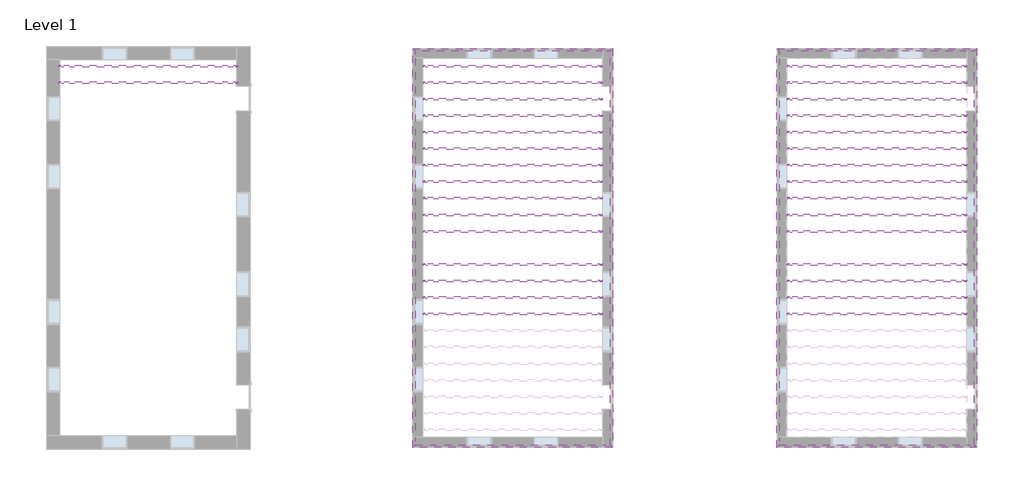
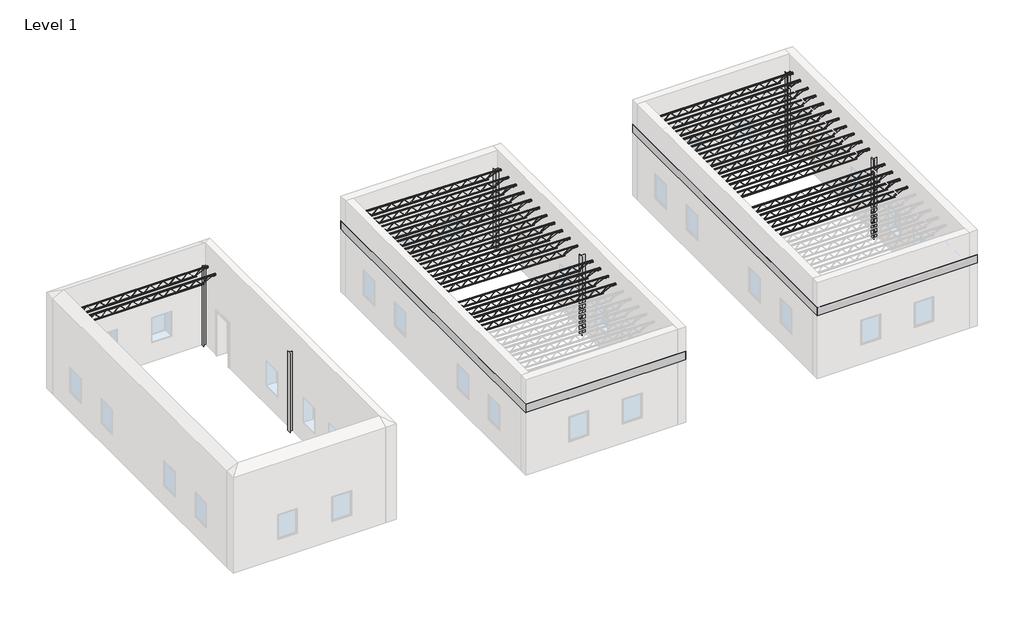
# One storey, part 3 of 3: 32 beams, 10 columns, 8 proxies.
"""IFC4 building model written with IfcOpenShell, lengths in millimetres."""

from ifc_helpers import new_model, si_unit, point, frame, frame_2d, origin, origin_with_axes, place, context, project, spatial, polyline, circle_curve, trimmed, segment, composite_curve, outline, extrude, faceted_brep, transform, mapped, element, save
from components import k_series_bar_joist_rod_web_12k1_aec08bc9, k_series_bar_joist_rod_web_12k1_dd27f140

model = new_model("IFC4")

# Units and contexts
model_context = context("Model", 3, world=origin())
ifc_project = project(units=[si_unit("LENGTHUNIT", "METRE", prefix="MILLI")], contexts=[model_context])

# Site, building, storey
site = spatial("IfcSite", under=ifc_project)
building = spatial("IfcBuilding", under=site)
storey = spatial("IfcBuildingStorey", under=building, Name="Level 1", Elevation=0.0)

# Beams
placement = place(None, origin())
k_series_bar_joist_rod_web_12k1_shape = k_series_bar_joist_rod_web_12k1_aec08bc9(model_context)
element("IfcBeam", 1, ObjectType="K-Series Bar Joist-Rod Web : 12K1", at=placement, inside=storey, context=model_context, shape_type="MappedRepresentation", body=[
    mapped(k_series_bar_joist_rod_web_12k1_shape, transform((28873.0055911, 557.9351523, 3764.3), x_axis=(1.0, 0.0, 0.0), y_axis=(0.0, 1.0, 0.0), z_axis=(0.0, 0.0, 1.0))),
])
element("IfcBeam", 2, ObjectType="K-Series Bar Joist-Rod Web : 12K1", at=placement, inside=storey, context=model_context, shape_type="MappedRepresentation", body=[
    mapped(k_series_bar_joist_rod_web_12k1_shape, transform((28873.0055911, 1167.5351523, 3764.3), x_axis=(1.0, 0.0, 0.0), y_axis=(0.0, 1.0, 0.0), z_axis=(0.0, 0.0, 1.0))),
])
element("IfcBeam", 3, ObjectType="K-Series Bar Joist-Rod Web : 12K1", at=placement, inside=storey, context=model_context, shape_type="MappedRepresentation", body=[
    mapped(k_series_bar_joist_rod_web_12k1_shape, transform((28873.0055911, 1777.1351523, 3764.3), x_axis=(1.0, 0.0, 0.0), y_axis=(0.0, 1.0, 0.0), z_axis=(0.0, 0.0, 1.0))),
])
element("IfcBeam", 4, ObjectType="K-Series Bar Joist-Rod Web : 12K1", at=placement, inside=storey, context=model_context, shape_type="MappedRepresentation", body=[
    mapped(k_series_bar_joist_rod_web_12k1_shape, transform((28873.0055911, 2386.7351523, 3764.3), x_axis=(1.0, 0.0, 0.0), y_axis=(0.0, 1.0, 0.0), z_axis=(0.0, 0.0, 1.0))),
])
element("IfcBeam", 5, ObjectType="K-Series Bar Joist-Rod Web : 12K1", at=placement, inside=storey, context=model_context, shape_type="MappedRepresentation", body=[
    mapped(k_series_bar_joist_rod_web_12k1_shape, transform((28873.0055911, 3605.9351523, 3764.3), x_axis=(1.0, 0.0, 0.0), y_axis=(0.0, 1.0, 0.0), z_axis=(0.0, 0.0, 1.0))),
])
element("IfcBeam", 6, ObjectType="K-Series Bar Joist-Rod Web : 12K1", at=placement, inside=storey, context=model_context, shape_type="MappedRepresentation", body=[
    mapped(k_series_bar_joist_rod_web_12k1_shape, transform((28873.0055911, 4215.5351523, 3764.3), x_axis=(1.0, 0.0, 0.0), y_axis=(0.0, 1.0, 0.0), z_axis=(0.0, 0.0, 1.0))),
])
element("IfcBeam", 7, ObjectType="K-Series Bar Joist-Rod Web : 12K1", at=placement, inside=storey, context=model_context, shape_type="MappedRepresentation", body=[
    mapped(k_series_bar_joist_rod_web_12k1_shape, transform((28873.0055911, 4825.1351523, 3764.3), x_axis=(1.0, 0.0, 0.0), y_axis=(0.0, 1.0, 0.0), z_axis=(0.0, 0.0, 1.0))),
])
element("IfcBeam", 8, ObjectType="K-Series Bar Joist-Rod Web : 12K1", at=placement, inside=storey, context=model_context, shape_type="MappedRepresentation", body=[
    mapped(k_series_bar_joist_rod_web_12k1_shape, transform((28873.0055911, 5434.7351523, 3764.3), x_axis=(1.0, 0.0, 0.0), y_axis=(0.0, 1.0, 0.0), z_axis=(0.0, 0.0, 1.0))),
])
element("IfcBeam", 9, ObjectType="K-Series Bar Joist-Rod Web : 12K1", at=placement, inside=storey, context=model_context, shape_type="MappedRepresentation", body=[
    mapped(k_series_bar_joist_rod_web_12k1_shape, transform((28873.0055911, 6044.3351523, 3764.3), x_axis=(1.0, 0.0, 0.0), y_axis=(0.0, 1.0, 0.0), z_axis=(0.0, 0.0, 1.0))),
])
element("IfcBeam", 10, ObjectType="K-Series Bar Joist-Rod Web : 12K1", at=placement, inside=storey, context=model_context, shape_type="MappedRepresentation", body=[
    mapped(k_series_bar_joist_rod_web_12k1_shape, transform((28873.0055911, 6653.9351523, 3764.3), x_axis=(1.0, 0.0, 0.0), y_axis=(0.0, 1.0, 0.0), z_axis=(0.0, 0.0, 1.0))),
])
element("IfcBeam", 11, ObjectType="K-Series Bar Joist-Rod Web : 12K1", at=placement, inside=storey, context=model_context, shape_type="MappedRepresentation", body=[
    mapped(k_series_bar_joist_rod_web_12k1_shape, transform((28873.0055911, 7263.5351523, 3764.3), x_axis=(1.0, 0.0, 0.0), y_axis=(0.0, 1.0, 0.0), z_axis=(0.0, 0.0, 1.0))),
])
element("IfcBeam", 12, ObjectType="K-Series Bar Joist-Rod Web : 12K1", at=placement, inside=storey, context=model_context, shape_type="MappedRepresentation", body=[
    mapped(k_series_bar_joist_rod_web_12k1_shape, transform((28873.0055911, 7873.1351523, 3764.3), x_axis=(1.0, 0.0, 0.0), y_axis=(0.0, 1.0, 0.0), z_axis=(0.0, 0.0, 1.0))),
])
element("IfcBeam", 13, ObjectType="K-Series Bar Joist-Rod Web : 12K1", at=placement, inside=storey, context=model_context, shape_type="MappedRepresentation", body=[
    mapped(k_series_bar_joist_rod_web_12k1_shape, transform((28873.0055911, 8482.7351523, 3764.3), x_axis=(1.0, 0.0, 0.0), y_axis=(0.0, 1.0, 0.0), z_axis=(0.0, 0.0, 1.0))),
])
element("IfcBeam", 14, ObjectType="K-Series Bar Joist-Rod Web : 12K1", at=placement, inside=storey, context=model_context, shape_type="MappedRepresentation", body=[
    mapped(k_series_bar_joist_rod_web_12k1_shape, transform((28873.0055911, 9092.3351523, 3764.3), x_axis=(1.0, 0.0, 0.0), y_axis=(0.0, 1.0, 0.0), z_axis=(0.0, 0.0, 1.0))),
])
element("IfcBeam", 15, ObjectType="K-Series Bar Joist-Rod Web : 12K1", at=placement, inside=storey, context=model_context, shape_type="MappedRepresentation", body=[
    mapped(k_series_bar_joist_rod_web_12k1_shape, transform((28873.0055911, 9701.9351523, 3764.3), x_axis=(1.0, 0.0, 0.0), y_axis=(0.0, 1.0, 0.0), z_axis=(0.0, 0.0, 1.0))),
])
element("IfcBeam", 16, ObjectType="K-Series Bar Joist-Rod Web : 12K1", at=placement, inside=storey, context=model_context, shape_type="MappedRepresentation", body=[
    mapped(k_series_bar_joist_rod_web_12k1_shape, transform((2050.6055911, 9092.3351523, 3764.3), x_axis=(1.0, 0.0, 0.0), y_axis=(0.0, 1.0, 0.0), z_axis=(0.0, 0.0, 1.0))),
])
element("IfcBeam", 17, ObjectType="K-Series Bar Joist-Rod Web : 12K1", at=placement, inside=storey, context=model_context, shape_type="MappedRepresentation", body=[
    mapped(k_series_bar_joist_rod_web_12k1_shape, transform((2050.6055911, 9701.9351523, 3764.3), x_axis=(1.0, 0.0, 0.0), y_axis=(0.0, 1.0, 0.0), z_axis=(0.0, 0.0, 1.0))),
])
k_series_bar_joist_rod_web_12k1_2_shape = k_series_bar_joist_rod_web_12k1_dd27f140(model_context)
element("IfcBeam", 18, ObjectType="K-Series Bar Joist-Rod Web : 12K1", at=placement, inside=storey, context=model_context, shape_type="MappedRepresentation", body=[
    mapped(k_series_bar_joist_rod_web_12k1_2_shape, transform((15460.0559301, 557.9351523, 3827.8172194), x_axis=(0.9998063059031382, 0.0, -0.019681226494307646), y_axis=(0.0, 1.0, 0.0), z_axis=(0.019681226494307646, 0.0, 0.9998063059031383))),
])
element("IfcBeam", 19, ObjectType="K-Series Bar Joist-Rod Web : 12K1", at=placement, inside=storey, context=model_context, shape_type="MappedRepresentation", body=[
    mapped(k_series_bar_joist_rod_web_12k1_2_shape, transform((15460.0559301, 1167.5351523, 3827.8172194), x_axis=(0.9998063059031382, 0.0, -0.019681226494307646), y_axis=(0.0, 1.0, 0.0), z_axis=(0.019681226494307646, 0.0, 0.9998063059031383))),
])
element("IfcBeam", 20, ObjectType="K-Series Bar Joist-Rod Web : 12K1", at=placement, inside=storey, context=model_context, shape_type="MappedRepresentation", body=[
    mapped(k_series_bar_joist_rod_web_12k1_2_shape, transform((15460.0559301, 1777.1351523, 3827.8172194), x_axis=(0.9998063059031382, 0.0, -0.019681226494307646), y_axis=(0.0, 1.0, 0.0), z_axis=(0.019681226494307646, 0.0, 0.9998063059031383))),
])
element("IfcBeam", 21, ObjectType="K-Series Bar Joist-Rod Web : 12K1", at=placement, inside=storey, context=model_context, shape_type="MappedRepresentation", body=[
    mapped(k_series_bar_joist_rod_web_12k1_2_shape, transform((15460.0559301, 2386.7351523, 3827.8172194), x_axis=(0.9998063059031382, 0.0, -0.019681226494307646), y_axis=(0.0, 1.0, 0.0), z_axis=(0.019681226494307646, 0.0, 0.9998063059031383))),
])
element("IfcBeam", 22, ObjectType="K-Series Bar Joist-Rod Web : 12K1", at=placement, inside=storey, context=model_context, shape_type="MappedRepresentation", body=[
    mapped(k_series_bar_joist_rod_web_12k1_2_shape, transform((15460.0559301, 3605.9351523, 3827.8172194), x_axis=(0.9998063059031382, 0.0, -0.019681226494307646), y_axis=(0.0, 1.0, 0.0), z_axis=(0.019681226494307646, 0.0, 0.9998063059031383))),
])
element("IfcBeam", 23, ObjectType="K-Series Bar Joist-Rod Web : 12K1", at=placement, inside=storey, context=model_context, shape_type="MappedRepresentation", body=[
    mapped(k_series_bar_joist_rod_web_12k1_2_shape, transform((15460.0559301, 4215.5351523, 3827.8172194), x_axis=(0.9998063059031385, 0.0, -0.019681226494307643), y_axis=(0.0, 1.0000000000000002, 0.0), z_axis=(0.019681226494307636, 0.0, 0.9998063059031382))),
])
element("IfcBeam", 24, ObjectType="K-Series Bar Joist-Rod Web : 12K1", at=placement, inside=storey, context=model_context, shape_type="MappedRepresentation", body=[
    mapped(k_series_bar_joist_rod_web_12k1_2_shape, transform((15460.0559301, 4825.1351523, 3827.8172194), x_axis=(0.9998063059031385, 0.0, -0.019681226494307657), y_axis=(0.0, 1.0000000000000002, 0.0), z_axis=(0.01968122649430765, 0.0, 0.9998063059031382))),
])
element("IfcBeam", 25, ObjectType="K-Series Bar Joist-Rod Web : 12K1", at=placement, inside=storey, context=model_context, shape_type="MappedRepresentation", body=[
    mapped(k_series_bar_joist_rod_web_12k1_2_shape, transform((15460.0559301, 5434.7351523, 3827.8172194), x_axis=(0.9998063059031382, 0.0, -0.019681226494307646), y_axis=(0.0, 1.0, 0.0), z_axis=(0.019681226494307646, 0.0, 0.9998063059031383))),
])
element("IfcBeam", 26, ObjectType="K-Series Bar Joist-Rod Web : 12K1", at=placement, inside=storey, context=model_context, shape_type="MappedRepresentation", body=[
    mapped(k_series_bar_joist_rod_web_12k1_2_shape, transform((15460.0559301, 6044.3351523, 3827.8172194), x_axis=(0.9998063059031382, 0.0, -0.019681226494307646), y_axis=(0.0, 1.0, 0.0), z_axis=(0.019681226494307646, 0.0, 0.9998063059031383))),
])
element("IfcBeam", 27, ObjectType="K-Series Bar Joist-Rod Web : 12K1", at=placement, inside=storey, context=model_context, shape_type="MappedRepresentation", body=[
    mapped(k_series_bar_joist_rod_web_12k1_2_shape, transform((15460.0559301, 6653.9351523, 3827.8172194), x_axis=(0.9998063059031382, 0.0, -0.019681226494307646), y_axis=(0.0, 1.0, 0.0), z_axis=(0.019681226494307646, 0.0, 0.9998063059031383))),
])
element("IfcBeam", 28, ObjectType="K-Series Bar Joist-Rod Web : 12K1", at=placement, inside=storey, context=model_context, shape_type="MappedRepresentation", body=[
    mapped(k_series_bar_joist_rod_web_12k1_2_shape, transform((15460.0559301, 7263.5351523, 3827.8172194), x_axis=(0.9998063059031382, 0.0, -0.019681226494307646), y_axis=(0.0, 1.0, 0.0), z_axis=(0.019681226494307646, 0.0, 0.9998063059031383))),
])
element("IfcBeam", 29, ObjectType="K-Series Bar Joist-Rod Web : 12K1", at=placement, inside=storey, context=model_context, shape_type="MappedRepresentation", body=[
    mapped(k_series_bar_joist_rod_web_12k1_2_shape, transform((15460.0559301, 7873.1351523, 3827.8172194), x_axis=(0.9998063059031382, 0.0, -0.019681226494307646), y_axis=(0.0, 1.0, 0.0), z_axis=(0.019681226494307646, 0.0, 0.9998063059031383))),
])
element("IfcBeam", 30, ObjectType="K-Series Bar Joist-Rod Web : 12K1", at=placement, inside=storey, context=model_context, shape_type="MappedRepresentation", body=[
    mapped(k_series_bar_joist_rod_web_12k1_2_shape, transform((15460.0559301, 8482.7351523, 3827.8172194), x_axis=(0.9998063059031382, 0.0, -0.019681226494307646), y_axis=(0.0, 1.0, 0.0), z_axis=(0.019681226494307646, 0.0, 0.9998063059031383))),
])
element("IfcBeam", 31, ObjectType="K-Series Bar Joist-Rod Web : 12K1", at=placement, inside=storey, context=model_context, shape_type="MappedRepresentation", body=[
    mapped(k_series_bar_joist_rod_web_12k1_2_shape, transform((15460.0559301, 9092.3351523, 3827.8172194), x_axis=(0.9998063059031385, 0.0, -0.019681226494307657), y_axis=(0.0, 1.0000000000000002, 0.0), z_axis=(0.01968122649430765, 0.0, 0.9998063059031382))),
])
element("IfcBeam", 32, ObjectType="K-Series Bar Joist-Rod Web : 12K1", at=placement, inside=storey, context=model_context, shape_type="MappedRepresentation", body=[
    mapped(k_series_bar_joist_rod_web_12k1_2_shape, transform((15460.0559301, 9701.9351523, 3827.8172194), x_axis=(0.9998063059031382, 0.0, -0.019681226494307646), y_axis=(0.0, 1.0, 0.0), z_axis=(0.019681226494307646, 0.0, 0.9998063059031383))),
])

# Proxies
element("IfcBuildingElementProxy", 33, Name="Wall Sweeps", at=placement, inside=storey, context=model_context, shape_type="SweptSolid", body=[
    extrude(outline(polyline([(19141.6305911, -4353.7898477), (19049.5555911, -4261.7148477), (19049.5555911, 10254.3851523), (19141.6305911, 10346.4601523), (19141.6305911, -4353.7898477)])), frame((0.0, 0.0, 3048.0), z_axis=(0.0, 0.0, 1.0), x_axis=(1.0, 0.0, 0.0)), (0.0, 0.0, 1.0), 406.4),
])
element("IfcBuildingElementProxy", 34, Name="Wall Sweeps", at=placement, inside=storey, context=model_context, shape_type="Brep", body=[
    faceted_brep([(19141.6305911, 10346.4601523, 3454.4), (19049.5555911, 10254.3851523, 3454.4), (19049.5555911, 10254.3851523, 3048.0), (19141.6305911, 10346.4601523, 3048.0), (11781.9805911, 10346.4601523, 3454.4), (11781.9805911, 10346.4601523, 3048.0), (11874.0555911, 10254.3851523, 3048.0), (11874.0555911, 10254.3851523, 3454.4), (18776.5055911, 10254.3851523, 3454.4), (18776.5055911, 10254.3851523, 3048.0)], [[[0, 1, 2, 3]], [[4, 5, 6, 7]], [[1, 0, 4, 7, 8]], [[2, 1, 8, 7, 6, 9]], [[3, 2, 9, 6, 5]], [[0, 3, 5, 4]]]),
])
element("IfcBuildingElementProxy", 35, Name="Wall Sweeps", at=placement, inside=storey, context=model_context, shape_type="Brep", body=[
    faceted_brep([(19141.6305911, -4353.7898477, 3454.4), (19141.6305911, -4353.7898477, 3048.0), (19049.5555911, -4261.7148477, 3048.0), (19049.5555911, -4261.7148477, 3454.4), (11781.9805911, -4353.7898477, 3454.4), (11874.0555911, -4261.7148477, 3454.4), (11874.0555911, -4261.7148477, 3048.0), (11781.9805911, -4353.7898477, 3048.0), (18776.5055911, -4261.7148477, 3048.0), (18776.5055911, -4261.7148477, 3454.4)], [[[0, 1, 2, 3]], [[4, 5, 6, 7]], [[1, 0, 4, 7]], [[2, 1, 7, 6, 8]], [[3, 2, 8, 6, 5, 9]], [[0, 3, 9, 5, 4]]]),
])
element("IfcBuildingElementProxy", 36, Name="Wall Sweeps", at=placement, inside=storey, context=model_context, shape_type="Brep", body=[
    faceted_brep([(11781.9805911, -4353.7898477, 3454.4), (11781.9805911, -4353.7898477, 3048.0), (11874.0555911, -4261.7148477, 3048.0), (11874.0555911, -4261.7148477, 3454.4), (11781.9805911, 10346.4601523, 3454.4), (11874.0555911, 10254.3851523, 3454.4), (11874.0555911, 10254.3851523, 3048.0), (11781.9805911, 10346.4601523, 3048.0), (11874.0555911, 9981.3351523, 3048.0), (11874.0555911, -3988.6648477, 3048.0), (11874.0555911, 9981.3351523, 3454.4), (11874.0555911, -3988.6648477, 3454.4)], [[[0, 1, 2, 3]], [[4, 5, 6, 7]], [[1, 0, 4, 7]], [[2, 1, 7, 6, 8, 9]], [[3, 2, 9, 8, 6, 5, 10, 11]], [[0, 3, 11, 10, 5, 4]]]),
])
element("IfcBuildingElementProxy", 37, Name="Wall Sweeps", at=placement, inside=storey, context=model_context, shape_type="SweptSolid", body=[
    extrude(outline(polyline([(32552.8305911, -4353.7898477), (32460.7555911, -4261.7148477), (32460.7555911, 10254.3851523), (32552.8305911, 10346.4601523), (32552.8305911, -4353.7898477)])), frame((0.0, 0.0, 3048.0), z_axis=(0.0, 0.0, 1.0), x_axis=(1.0, 0.0, 0.0)), (0.0, 0.0, 1.0), 406.4),
])
element("IfcBuildingElementProxy", 38, Name="Wall Sweeps", at=placement, inside=storey, context=model_context, shape_type="Brep", body=[
    faceted_brep([(32552.8305911, 10346.4601523, 3454.4), (32460.7555911, 10254.3851523, 3454.4), (32460.7555911, 10254.3851523, 3048.0), (32552.8305911, 10346.4601523, 3048.0), (25193.1805911, 10346.4601523, 3454.4), (25193.1805911, 10346.4601523, 3048.0), (25285.2555911, 10254.3851523, 3048.0), (25285.2555911, 10254.3851523, 3454.4), (32187.7055911, 10254.3851523, 3454.4), (32187.7055911, 10254.3851523, 3048.0)], [[[0, 1, 2, 3]], [[4, 5, 6, 7]], [[1, 0, 4, 7, 8]], [[2, 1, 8, 7, 6, 9]], [[3, 2, 9, 6, 5]], [[0, 3, 5, 4]]]),
])
element("IfcBuildingElementProxy", 39, Name="Wall Sweeps", at=placement, inside=storey, context=model_context, shape_type="Brep", body=[
    faceted_brep([(32552.8305911, -4353.7898477, 3454.4), (32552.8305911, -4353.7898477, 3048.0), (32460.7555911, -4261.7148477, 3048.0), (32460.7555911, -4261.7148477, 3454.4), (25193.1805911, -4353.7898477, 3454.4), (25285.2555911, -4261.7148477, 3454.4), (25285.2555911, -4261.7148477, 3048.0), (25193.1805911, -4353.7898477, 3048.0), (32187.7055911, -4261.7148477, 3048.0), (32187.7055911, -4261.7148477, 3454.4)], [[[0, 1, 2, 3]], [[4, 5, 6, 7]], [[1, 0, 4, 7]], [[2, 1, 7, 6, 8]], [[3, 2, 8, 6, 5, 9]], [[0, 3, 9, 5, 4]]]),
])
element("IfcBuildingElementProxy", 40, Name="Wall Sweeps", at=placement, inside=storey, context=model_context, shape_type="Brep", body=[
    faceted_brep([(25193.1805911, -4353.7898477, 3454.4), (25193.1805911, -4353.7898477, 3048.0), (25285.2555911, -4261.7148477, 3048.0), (25285.2555911, -4261.7148477, 3454.4), (25193.1805911, 10346.4601523, 3454.4), (25285.2555911, 10254.3851523, 3454.4), (25285.2555911, 10254.3851523, 3048.0), (25193.1805911, 10346.4601523, 3048.0), (25285.2555911, 9981.3351523, 3048.0), (25285.2555911, -3988.6648477, 3048.0), (25285.2555911, 9981.3351523, 3454.4), (25285.2555911, -3988.6648477, 3454.4)], [[[0, 1, 2, 3]], [[4, 5, 6, 7]], [[1, 0, 4, 7]], [[2, 1, 7, 6, 8, 9]], [[3, 2, 9, 8, 6, 5, 10, 11]], [[0, 3, 11, 10, 5, 4]]]),
])

# Columns
element("IfcColumn", 41, ObjectType="W-Wide Flange-Column1 : W10X33 2", at=placement, inside=storey, context=model_context, shape_type="SweptSolid", body=[
    extrude(outline(composite_curve([segment(polyline([(12112.428638, 3097.4390586), (12123.4419192, 3097.4390586), (12123.4419192, 3017.5679648)]), True, "CONTINUOUS"), segment(trimmed(circle_curve(frame_2d((12141.003638, 3017.5679648)), 17.5617188), [point((12123.4419192, 3017.5679648))], [point((12141.003638, 3000.0062461))], True, "CARTESIAN"), True, "CONTINUOUS"), segment(polyline([(12141.003638, 3000.0062461), (12331.0075442, 3000.0062461)]), True, "CONTINUOUS"), segment(trimmed(circle_curve(frame_2d((12331.0075442, 3017.5679648)), 17.5617188), [point((12331.0075442, 3000.0062461))], [point((12348.569263, 3017.5679648))], True, "CARTESIAN"), True, "CONTINUOUS"), segment(polyline([(12348.569263, 3017.5679648), (12348.569263, 3097.4390586), (12359.5825442, 3097.4390586), (12359.5825442, 2895.2312461), (12348.569263, 2895.2312461), (12348.569263, 2975.1023398)]), True, "CONTINUOUS"), segment(trimmed(circle_curve(frame_2d((12331.0075442, 2975.1023398)), 17.5617188), [point((12348.569263, 2975.1023398))], [point((12331.0075442, 2992.6640586))], True, "CARTESIAN"), True, "CONTINUOUS"), segment(polyline([(12331.0075442, 2992.6640586), (12141.003638, 2992.6640586)]), True, "CONTINUOUS"), segment(trimmed(circle_curve(frame_2d((12141.003638, 2975.1023398)), 17.5617188), [point((12141.003638, 2992.6640586))], [point((12123.4419192, 2975.1023398))], True, "CARTESIAN"), True, "CONTINUOUS"), segment(polyline([(12123.4419192, 2975.1023398), (12123.4419192, 2895.2312461), (12112.428638, 2895.2312461), (12112.428638, 3097.4390586)]), True, "CONTINUOUS")], self_intersect=False)), origin_with_axes(), (0.0, 0.0, 1.0), 3980.2),
])
element("IfcColumn", 42, ObjectType="W-Wide Flange-Column1 : W10X33 2", at=placement, inside=storey, context=model_context, shape_type="SweptSolid", body=[
    extrude(outline(composite_curve([segment(polyline([(18564.028638, 3097.4390586), (18575.0419192, 3097.4390586), (18575.0419192, 3017.5679648)]), True, "CONTINUOUS"), segment(trimmed(circle_curve(frame_2d((18592.603638, 3017.5679648)), 17.5617188), [point((18575.0419192, 3017.5679648))], [point((18592.603638, 3000.0062461))], True, "CARTESIAN"), True, "CONTINUOUS"), segment(polyline([(18592.603638, 3000.0062461), (18782.6075442, 3000.0062461)]), True, "CONTINUOUS"), segment(trimmed(circle_curve(frame_2d((18782.6075442, 3017.5679648)), 17.5617188), [point((18782.6075442, 3000.0062461))], [point((18800.169263, 3017.5679648))], True, "CARTESIAN"), True, "CONTINUOUS"), segment(polyline([(18800.169263, 3017.5679648), (18800.169263, 3097.4390586), (18811.1825442, 3097.4390586), (18811.1825442, 2895.2312461), (18800.169263, 2895.2312461), (18800.169263, 2975.1023398)]), True, "CONTINUOUS"), segment(trimmed(circle_curve(frame_2d((18782.6075442, 2975.1023398)), 17.5617188), [point((18800.169263, 2975.1023398))], [point((18782.6075442, 2992.6640586))], True, "CARTESIAN"), True, "CONTINUOUS"), segment(polyline([(18782.6075442, 2992.6640586), (18592.603638, 2992.6640586)]), True, "CONTINUOUS"), segment(trimmed(circle_curve(frame_2d((18592.603638, 2975.1023398)), 17.5617188), [point((18592.603638, 2992.6640586))], [point((18575.0419192, 2975.1023398))], True, "CARTESIAN"), True, "CONTINUOUS"), segment(polyline([(18575.0419192, 2975.1023398), (18575.0419192, 2895.2312461), (18564.028638, 2895.2312461), (18564.028638, 3097.4390586)]), True, "CONTINUOUS")], self_intersect=False)), origin_with_axes(), (0.0, 0.0, 1.0), 3853.2),
])
element("IfcColumn", 43, ObjectType="W-Wide Flange-Column1 : W10X33 2", at=placement, inside=storey, context=model_context, shape_type="SweptSolid", body=[
    extrude(outline(composite_curve([segment(polyline([(12112.428638, 9980.8390586), (12123.4419192, 9980.8390586), (12123.4419192, 9900.9679648)]), True, "CONTINUOUS"), segment(trimmed(circle_curve(frame_2d((12141.003638, 9900.9679648)), 17.5617188), [point((12123.4419192, 9900.9679648))], [point((12141.003638, 9883.4062461))], True, "CARTESIAN"), True, "CONTINUOUS"), segment(polyline([(12141.003638, 9883.4062461), (12331.0075442, 9883.4062461)]), True, "CONTINUOUS"), segment(trimmed(circle_curve(frame_2d((12331.0075442, 9900.9679648)), 17.5617188), [point((12331.0075442, 9883.4062461))], [point((12348.569263, 9900.9679648))], True, "CARTESIAN"), True, "CONTINUOUS"), segment(polyline([(12348.569263, 9900.9679648), (12348.569263, 9980.8390586), (12359.5825442, 9980.8390586), (12359.5825442, 9778.6312461), (12348.569263, 9778.6312461), (12348.569263, 9858.5023398)]), True, "CONTINUOUS"), segment(trimmed(circle_curve(frame_2d((12331.0075442, 9858.5023398)), 17.5617188), [point((12348.569263, 9858.5023398))], [point((12331.0075442, 9876.0640586))], True, "CARTESIAN"), True, "CONTINUOUS"), segment(polyline([(12331.0075442, 9876.0640586), (12141.003638, 9876.0640586)]), True, "CONTINUOUS"), segment(trimmed(circle_curve(frame_2d((12141.003638, 9858.5023398)), 17.5617188), [point((12141.003638, 9876.0640586))], [point((12123.4419192, 9858.5023398))], True, "CARTESIAN"), True, "CONTINUOUS"), segment(polyline([(12123.4419192, 9858.5023398), (12123.4419192, 9778.6312461), (12112.428638, 9778.6312461), (12112.428638, 9980.8390586)]), True, "CONTINUOUS")], self_intersect=False)), origin_with_axes(), (0.0, 0.0, 1.0), 3980.2),
])
element("IfcColumn", 44, ObjectType="W-Wide Flange-Column1 : W10X33 2", at=placement, inside=storey, context=model_context, shape_type="SweptSolid", body=[
    extrude(outline(composite_curve([segment(polyline([(18564.028638, 9980.8390586), (18575.0419192, 9980.8390586), (18575.0419192, 9900.9679648)]), True, "CONTINUOUS"), segment(trimmed(circle_curve(frame_2d((18592.603638, 9900.9679648)), 17.5617188), [point((18575.0419192, 9900.9679648))], [point((18592.603638, 9883.4062461))], True, "CARTESIAN"), True, "CONTINUOUS"), segment(polyline([(18592.603638, 9883.4062461), (18782.6075442, 9883.4062461)]), True, "CONTINUOUS"), segment(trimmed(circle_curve(frame_2d((18782.6075442, 9900.9679648)), 17.5617188), [point((18782.6075442, 9883.4062461))], [point((18800.169263, 9900.9679648))], True, "CARTESIAN"), True, "CONTINUOUS"), segment(polyline([(18800.169263, 9900.9679648), (18800.169263, 9980.8390586), (18811.1825442, 9980.8390586), (18811.1825442, 9778.6312461), (18800.169263, 9778.6312461), (18800.169263, 9858.5023398)]), True, "CONTINUOUS"), segment(trimmed(circle_curve(frame_2d((18782.6075442, 9858.5023398)), 17.5617188), [point((18800.169263, 9858.5023398))], [point((18782.6075442, 9876.0640586))], True, "CARTESIAN"), True, "CONTINUOUS"), segment(polyline([(18782.6075442, 9876.0640586), (18592.603638, 9876.0640586)]), True, "CONTINUOUS"), segment(trimmed(circle_curve(frame_2d((18592.603638, 9858.5023398)), 17.5617188), [point((18592.603638, 9876.0640586))], [point((18575.0419192, 9858.5023398))], True, "CARTESIAN"), True, "CONTINUOUS"), segment(polyline([(18575.0419192, 9858.5023398), (18575.0419192, 9778.6312461), (18564.028638, 9778.6312461), (18564.028638, 9980.8390586)]), True, "CONTINUOUS")], self_intersect=False)), origin_with_axes(), (0.0, 0.0, 1.0), 3853.2),
])
element("IfcColumn", 45, ObjectType="W-Wide Flange-Column1 : W10X33 2", at=placement, inside=storey, context=model_context, shape_type="SweptSolid", body=[
    extrude(outline(composite_curve([segment(polyline([(25523.628638, 3097.4390586), (25534.6419192, 3097.4390586), (25534.6419192, 3017.5679648)]), True, "CONTINUOUS"), segment(trimmed(circle_curve(frame_2d((25552.203638, 3017.5679648)), 17.5617188), [point((25534.6419192, 3017.5679648))], [point((25552.203638, 3000.0062461))], True, "CARTESIAN"), True, "CONTINUOUS"), segment(polyline([(25552.203638, 3000.0062461), (25742.2075442, 3000.0062461)]), True, "CONTINUOUS"), segment(trimmed(circle_curve(frame_2d((25742.2075442, 3017.5679648)), 17.5617188), [point((25742.2075442, 3000.0062461))], [point((25759.769263, 3017.5679648))], True, "CARTESIAN"), True, "CONTINUOUS"), segment(polyline([(25759.769263, 3017.5679648), (25759.769263, 3097.4390586), (25770.7825442, 3097.4390586), (25770.7825442, 2895.2312461), (25759.769263, 2895.2312461), (25759.769263, 2975.1023398)]), True, "CONTINUOUS"), segment(trimmed(circle_curve(frame_2d((25742.2075442, 2975.1023398)), 17.5617187), [point((25759.769263, 2975.1023398))], [point((25742.2075442, 2992.6640586))], True, "CARTESIAN"), True, "CONTINUOUS"), segment(polyline([(25742.2075442, 2992.6640586), (25552.203638, 2992.6640586)]), True, "CONTINUOUS"), segment(trimmed(circle_curve(frame_2d((25552.203638, 2975.1023398)), 17.5617188), [point((25552.203638, 2992.6640586))], [point((25534.6419192, 2975.1023398))], True, "CARTESIAN"), True, "CONTINUOUS"), segment(polyline([(25534.6419192, 2975.1023398), (25534.6419192, 2895.2312461), (25523.628638, 2895.2312461), (25523.628638, 3097.4390586)]), True, "CONTINUOUS")], self_intersect=False)), origin_with_axes(), (0.0, 0.0, 1.0), 3980.2),
])
element("IfcColumn", 46, ObjectType="W-Wide Flange-Column1 : W10X33 2", at=placement, inside=storey, context=model_context, shape_type="SweptSolid", body=[
    extrude(outline(composite_curve([segment(polyline([(31975.228638, 3097.4390586), (31986.2419192, 3097.4390586), (31986.2419192, 3017.5679648)]), True, "CONTINUOUS"), segment(trimmed(circle_curve(frame_2d((32003.803638, 3017.5679648)), 17.5617188), [point((31986.2419192, 3017.5679648))], [point((32003.803638, 3000.0062461))], True, "CARTESIAN"), True, "CONTINUOUS"), segment(polyline([(32003.803638, 3000.0062461), (32193.8075442, 3000.0062461)]), True, "CONTINUOUS"), segment(trimmed(circle_curve(frame_2d((32193.8075442, 3017.5679648)), 17.5617188), [point((32193.8075442, 3000.0062461))], [point((32211.369263, 3017.5679648))], True, "CARTESIAN"), True, "CONTINUOUS"), segment(polyline([(32211.369263, 3017.5679648), (32211.369263, 3097.4390586), (32222.3825442, 3097.4390586), (32222.3825442, 2895.2312461), (32211.369263, 2895.2312461), (32211.369263, 2975.1023398)]), True, "CONTINUOUS"), segment(trimmed(circle_curve(frame_2d((32193.8075442, 2975.1023398)), 17.5617187), [point((32211.369263, 2975.1023398))], [point((32193.8075442, 2992.6640586))], True, "CARTESIAN"), True, "CONTINUOUS"), segment(polyline([(32193.8075442, 2992.6640586), (32003.803638, 2992.6640586)]), True, "CONTINUOUS"), segment(trimmed(circle_curve(frame_2d((32003.803638, 2975.1023398)), 17.5617188), [point((32003.803638, 2992.6640586))], [point((31986.2419192, 2975.1023398))], True, "CARTESIAN"), True, "CONTINUOUS"), segment(polyline([(31986.2419192, 2975.1023398), (31986.2419192, 2895.2312461), (31975.228638, 2895.2312461), (31975.228638, 3097.4390586)]), True, "CONTINUOUS")], self_intersect=False)), origin_with_axes(), (0.0, 0.0, 1.0), 3853.2),
])
element("IfcColumn", 47, ObjectType="W-Wide Flange-Column1 : W10X33 2", at=placement, inside=storey, context=model_context, shape_type="SweptSolid", body=[
    extrude(outline(composite_curve([segment(polyline([(25523.628638, 9980.8390586), (25534.6419192, 9980.8390586), (25534.6419192, 9900.9679648)]), True, "CONTINUOUS"), segment(trimmed(circle_curve(frame_2d((25552.203638, 9900.9679648)), 17.5617188), [point((25534.6419192, 9900.9679648))], [point((25552.203638, 9883.4062461))], True, "CARTESIAN"), True, "CONTINUOUS"), segment(polyline([(25552.203638, 9883.4062461), (25742.2075442, 9883.4062461)]), True, "CONTINUOUS"), segment(trimmed(circle_curve(frame_2d((25742.2075442, 9900.9679648)), 17.5617188), [point((25742.2075442, 9883.4062461))], [point((25759.769263, 9900.9679648))], True, "CARTESIAN"), True, "CONTINUOUS"), segment(polyline([(25759.769263, 9900.9679648), (25759.769263, 9980.8390586), (25770.7825442, 9980.8390586), (25770.7825442, 9778.6312461), (25759.769263, 9778.6312461), (25759.769263, 9858.5023398)]), True, "CONTINUOUS"), segment(trimmed(circle_curve(frame_2d((25742.2075442, 9858.5023398)), 17.5617187), [point((25759.769263, 9858.5023398))], [point((25742.2075442, 9876.0640586))], True, "CARTESIAN"), True, "CONTINUOUS"), segment(polyline([(25742.2075442, 9876.0640586), (25552.203638, 9876.0640586)]), True, "CONTINUOUS"), segment(trimmed(circle_curve(frame_2d((25552.203638, 9858.5023398)), 17.5617188), [point((25552.203638, 9876.0640586))], [point((25534.6419192, 9858.5023398))], True, "CARTESIAN"), True, "CONTINUOUS"), segment(polyline([(25534.6419192, 9858.5023398), (25534.6419192, 9778.6312461), (25523.628638, 9778.6312461), (25523.628638, 9980.8390586)]), True, "CONTINUOUS")], self_intersect=False)), origin_with_axes(), (0.0, 0.0, 1.0), 3980.2),
])
element("IfcColumn", 48, ObjectType="W-Wide Flange-Column1 : W10X33 2", at=placement, inside=storey, context=model_context, shape_type="SweptSolid", body=[
    extrude(outline(composite_curve([segment(polyline([(31975.228638, 9980.8390586), (31986.2419192, 9980.8390586), (31986.2419192, 9900.9679648)]), True, "CONTINUOUS"), segment(trimmed(circle_curve(frame_2d((32003.803638, 9900.9679648)), 17.5617188), [point((31986.2419192, 9900.9679648))], [point((32003.803638, 9883.4062461))], True, "CARTESIAN"), True, "CONTINUOUS"), segment(polyline([(32003.803638, 9883.4062461), (32193.8075442, 9883.4062461)]), True, "CONTINUOUS"), segment(trimmed(circle_curve(frame_2d((32193.8075442, 9900.9679648)), 17.5617188), [point((32193.8075442, 9883.4062461))], [point((32211.369263, 9900.9679648))], True, "CARTESIAN"), True, "CONTINUOUS"), segment(polyline([(32211.369263, 9900.9679648), (32211.369263, 9980.8390586), (32222.3825442, 9980.8390586), (32222.3825442, 9778.6312461), (32211.369263, 9778.6312461), (32211.369263, 9858.5023398)]), True, "CONTINUOUS"), segment(trimmed(circle_curve(frame_2d((32193.8075442, 9858.5023398)), 17.5617187), [point((32211.369263, 9858.5023398))], [point((32193.8075442, 9876.0640586))], True, "CARTESIAN"), True, "CONTINUOUS"), segment(polyline([(32193.8075442, 9876.0640586), (32003.803638, 9876.0640586)]), True, "CONTINUOUS"), segment(trimmed(circle_curve(frame_2d((32003.803638, 9858.5023398)), 17.5617188), [point((32003.803638, 9876.0640586))], [point((31986.2419192, 9858.5023398))], True, "CARTESIAN"), True, "CONTINUOUS"), segment(polyline([(31986.2419192, 9858.5023398), (31986.2419192, 9778.6312461), (31975.228638, 9778.6312461), (31975.228638, 9980.8390586)]), True, "CONTINUOUS")], self_intersect=False)), origin_with_axes(), (0.0, 0.0, 1.0), 3853.2),
])
element("IfcColumn", 49, ObjectType="W-Wide Flange-Column1 : W10X33 2", at=placement, inside=storey, context=model_context, shape_type="SweptSolid", body=[
    extrude(outline(composite_curve([segment(polyline([(5152.828638, 3097.4390586), (5163.8419192, 3097.4390586), (5163.8419192, 3017.5679648)]), True, "CONTINUOUS"), segment(trimmed(circle_curve(frame_2d((5181.403638, 3017.5679648)), 17.5617188), [point((5163.8419192, 3017.5679648))], [point((5181.403638, 3000.0062461))], True, "CARTESIAN"), True, "CONTINUOUS"), segment(polyline([(5181.403638, 3000.0062461), (5371.4075442, 3000.0062461)]), True, "CONTINUOUS"), segment(trimmed(circle_curve(frame_2d((5371.4075442, 3017.5679648)), 17.5617188), [point((5371.4075442, 3000.0062461))], [point((5388.969263, 3017.5679648))], True, "CARTESIAN"), True, "CONTINUOUS"), segment(polyline([(5388.969263, 3017.5679648), (5388.969263, 3097.4390586), (5399.9825442, 3097.4390586), (5399.9825442, 2895.2312461), (5388.969263, 2895.2312461), (5388.969263, 2975.1023398)]), True, "CONTINUOUS"), segment(trimmed(circle_curve(frame_2d((5371.4075442, 2975.1023398)), 17.5617187), [point((5388.969263, 2975.1023398))], [point((5371.4075442, 2992.6640586))], True, "CARTESIAN"), True, "CONTINUOUS"), segment(polyline([(5371.4075442, 2992.6640586), (5181.403638, 2992.6640586)]), True, "CONTINUOUS"), segment(trimmed(circle_curve(frame_2d((5181.403638, 2975.1023398)), 17.5617188), [point((5181.403638, 2992.6640586))], [point((5163.8419192, 2975.1023398))], True, "CARTESIAN"), True, "CONTINUOUS"), segment(polyline([(5163.8419192, 2975.1023398), (5163.8419192, 2895.2312461), (5152.828638, 2895.2312461), (5152.828638, 3097.4390586)]), True, "CONTINUOUS")], self_intersect=False)), origin_with_axes(), (0.0, 0.0, 1.0), 3853.2),
])
element("IfcColumn", 50, ObjectType="W-Wide Flange-Column1 : W10X33 2", at=placement, inside=storey, context=model_context, shape_type="SweptSolid", body=[
    extrude(outline(composite_curve([segment(polyline([(5152.828638, 9980.8390586), (5163.8419192, 9980.8390586), (5163.8419192, 9900.9679648)]), True, "CONTINUOUS"), segment(trimmed(circle_curve(frame_2d((5181.403638, 9900.9679648)), 17.5617188), [point((5163.8419192, 9900.9679648))], [point((5181.403638, 9883.4062461))], True, "CARTESIAN"), True, "CONTINUOUS"), segment(polyline([(5181.403638, 9883.4062461), (5371.4075442, 9883.4062461)]), True, "CONTINUOUS"), segment(trimmed(circle_curve(frame_2d((5371.4075442, 9900.9679648)), 17.5617188), [point((5371.4075442, 9883.4062461))], [point((5388.969263, 9900.9679648))], True, "CARTESIAN"), True, "CONTINUOUS"), segment(polyline([(5388.969263, 9900.9679648), (5388.969263, 9980.8390586), (5399.9825442, 9980.8390586), (5399.9825442, 9778.6312461), (5388.969263, 9778.6312461), (5388.969263, 9858.5023398)]), True, "CONTINUOUS"), segment(trimmed(circle_curve(frame_2d((5371.4075442, 9858.5023398)), 17.5617187), [point((5388.969263, 9858.5023398))], [point((5371.4075442, 9876.0640586))], True, "CARTESIAN"), True, "CONTINUOUS"), segment(polyline([(5371.4075442, 9876.0640586), (5181.403638, 9876.0640586)]), True, "CONTINUOUS"), segment(trimmed(circle_curve(frame_2d((5181.403638, 9858.5023398)), 17.5617188), [point((5181.403638, 9876.0640586))], [point((5163.8419192, 9858.5023398))], True, "CARTESIAN"), True, "CONTINUOUS"), segment(polyline([(5163.8419192, 9858.5023398), (5163.8419192, 9778.6312461), (5152.828638, 9778.6312461), (5152.828638, 9980.8390586)]), True, "CONTINUOUS")], self_intersect=False)), origin_with_axes(), (0.0, 0.0, 1.0), 3853.2),
])

save(model, "model.ifc")
